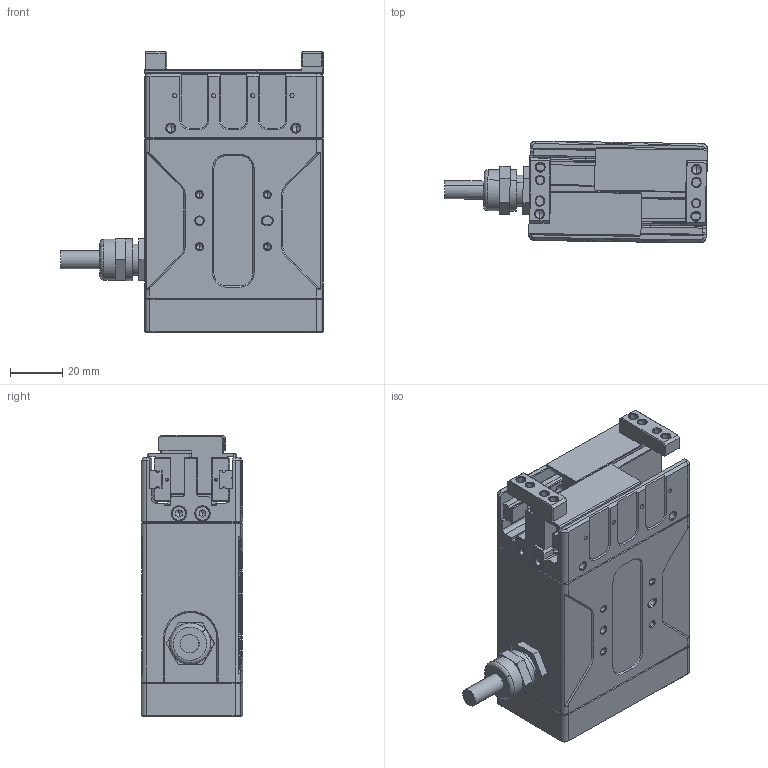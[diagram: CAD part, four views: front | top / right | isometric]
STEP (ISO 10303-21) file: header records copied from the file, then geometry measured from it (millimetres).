
FILE_DESCRIPTION (( 'STEP AP203' ), '1' );
FILE_NAME ('EFG-50.STEP', '2021-11-05T03:49:41', ( '' ), ( '' ), 'SwSTEP 2.0', 'SolidWorks 2018', '' );
FILE_SCHEMA (( 'CONFIG_CONTROL_DESIGN' ));
Length unit declared in the file: millimetre
Products named in the file (1): EFG-50
Bounding box: 100.78 x 38.92 x 108 mm (x, y, z)
Volume: 242764 mm3; surface area: 48080 mm2
Topology: 3 solids, 25 shells, 1124 faces, 2891 edges, 1794 vertices
Faces by surface type: plane 526, cylinder 293, cone 247, bspline 58
Entity records: 36471 total; most frequent: CARTESIAN_POINT 9497, ORIENTED_EDGE 5598, DIRECTION 5535, EDGE_CURVE 2799, AXIS2_PLACEMENT_3D 1935, VERTEX_POINT 1794, LINE 1665, VECTOR 1665
